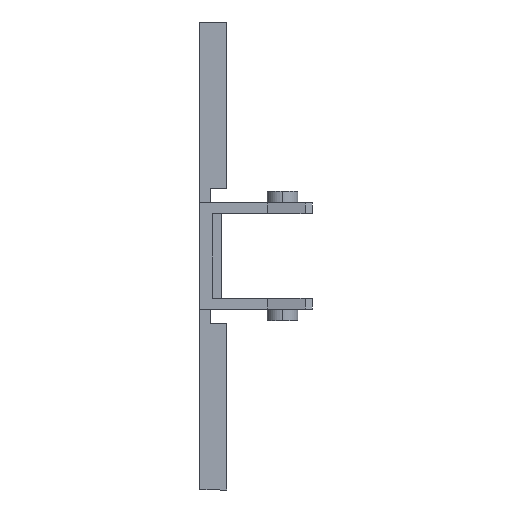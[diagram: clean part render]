
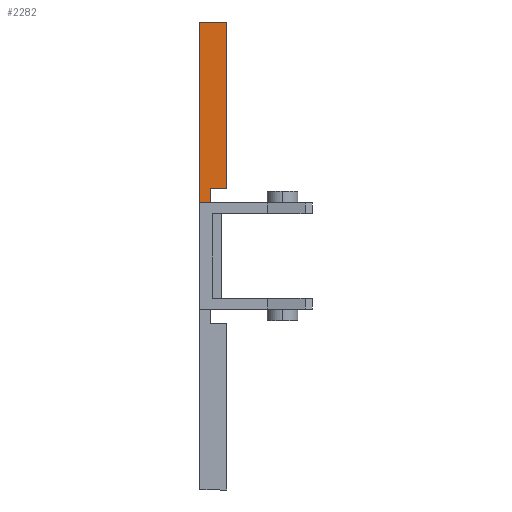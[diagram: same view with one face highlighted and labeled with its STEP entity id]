
A CAD part, front view. The second image highlights one B-rep face of the part: STEP entity #2282.
In plain terms, the highlighted planar face has unit normal (0, -1, 0).
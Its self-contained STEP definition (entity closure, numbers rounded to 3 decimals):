
#101 = CARTESIAN_POINT ( 'NONE',  ( 0., -9., 5.9 ) ) ;
#102 = CARTESIAN_POINT ( 'NONE',  ( 1.2, -9., 5.9 ) ) ;
#105 = CARTESIAN_POINT ( 'NONE',  ( 3., -9., 7.5 ) ) ;
#106 = CARTESIAN_POINT ( 'NONE',  ( 1.2, -9., 7.5 ) ) ;
#107 = CARTESIAN_POINT ( 'NONE',  ( 3., -9., 26. ) ) ;
#108 = CARTESIAN_POINT ( 'NONE',  ( 0., -9., 26. ) ) ;
#233 = CARTESIAN_POINT ( 'NONE',  ( 0., -9., 26. ) ) ;
#234 = DIRECTION ( 'NONE',  ( 1., 0., 0. ) ) ;
#491 = DIRECTION ( 'NONE',  ( 0., 0., -1. ) ) ;
#493 = CARTESIAN_POINT ( 'NONE',  ( 1.2, -9., 7.5 ) ) ;
#497 = CARTESIAN_POINT ( 'NONE',  ( 0., -9., 5.9 ) ) ;
#537 = DIRECTION ( 'NONE',  ( -1., 0., 0. ) ) ;
#676 = DIRECTION ( 'NONE',  ( 0., 0., 1. ) ) ;
#677 = DIRECTION ( 'NONE',  ( 0., 1., 0. ) ) ;
#683 = CARTESIAN_POINT ( 'NONE',  ( 0., -9., 5. ) ) ;
#686 = PLANE ( 'NONE',  #925 ) ;
#885 = EDGE_CURVE ( 'NONE', #1126, #1124, #1743, .T. ) ;
#925 = AXIS2_PLACEMENT_3D ( 'NONE', #683, #677, #676 ) ;
#957 = EDGE_CURVE ( 'NONE', #1124, #1125, #1837, .T. ) ;
#972 = EDGE_CURVE ( 'NONE', #1129, #1127, #1781, .T. ) ;
#1124 = VERTEX_POINT ( 'NONE', #105 ) ;
#1125 = VERTEX_POINT ( 'NONE', #106 ) ;
#1126 = VERTEX_POINT ( 'NONE', #107 ) ;
#1127 = VERTEX_POINT ( 'NONE', #108 ) ;
#1129 = VERTEX_POINT ( 'NONE', #101 ) ;
#1130 = VERTEX_POINT ( 'NONE', #102 ) ;
#1451 = DIRECTION ( 'NONE',  ( 0., 0., -1. ) ) ;
#1455 = CARTESIAN_POINT ( 'NONE',  ( 3., -9., 26. ) ) ;
#1510 = DIRECTION ( 'NONE',  ( -1., 0., 0. ) ) ;
#1514 = CARTESIAN_POINT ( 'NONE',  ( 3., -9., 7.5 ) ) ;
#1535 = CARTESIAN_POINT ( 'NONE',  ( 0., -9., 5. ) ) ;
#1538 = DIRECTION ( 'NONE',  ( 0., 0., 1. ) ) ;
#1633 = EDGE_CURVE ( 'NONE', #1127, #1126, #1967, .T. ) ;
#1708 = EDGE_CURVE ( 'NONE', #1125, #1130, #2118, .T. ) ;
#1712 = EDGE_CURVE ( 'NONE', #1130, #1129, #2126, .T. ) ;
#1743 = LINE ( 'NONE', #1455, #1744 ) ;
#1744 = VECTOR ( 'NONE', #1451, 1000. ) ;
#1772 = VECTOR ( 'NONE', #1510, 1000. ) ;
#1781 = LINE ( 'NONE', #1535, #1789 ) ;
#1789 = VECTOR ( 'NONE', #1538, 1000. ) ;
#1837 = LINE ( 'NONE', #1514, #1772 ) ;
#1967 = LINE ( 'NONE', #233, #1971 ) ;
#1971 = VECTOR ( 'NONE', #234, 1000. ) ;
#2118 = LINE ( 'NONE', #493, #2119 ) ;
#2119 = VECTOR ( 'NONE', #491, 1000. ) ;
#2126 = LINE ( 'NONE', #497, #2127 ) ;
#2127 = VECTOR ( 'NONE', #537, 1000. ) ;
#2213 = FACE_OUTER_BOUND ( 'NONE', #2366, .T. ) ;
#2282 = ADVANCED_FACE ( 'NONE', ( #2213 ), #686, .F. ) ;
#2366 = EDGE_LOOP ( 'NONE', ( #2741, #3004, #2742, #2744, #2743, #2740 ) ) ;
#2740 = ORIENTED_EDGE ( 'NONE', *, *, #1633, .F. ) ;
#2741 = ORIENTED_EDGE ( 'NONE', *, *, #972, .F. ) ;
#2742 = ORIENTED_EDGE ( 'NONE', *, *, #1708, .F. ) ;
#2743 = ORIENTED_EDGE ( 'NONE', *, *, #885, .F. ) ;
#2744 = ORIENTED_EDGE ( 'NONE', *, *, #957, .F. ) ;
#3004 = ORIENTED_EDGE ( 'NONE', *, *, #1712, .F. ) ;
